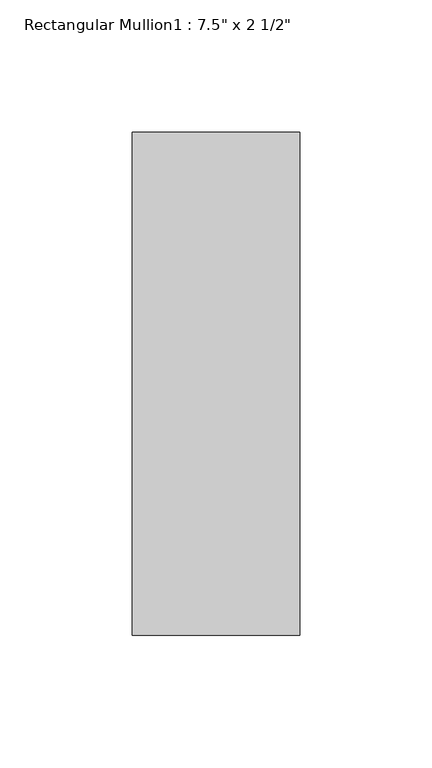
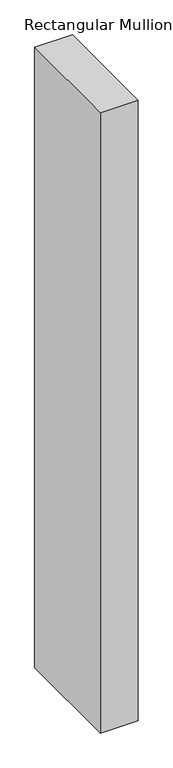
"""IFC4 building model written with IfcOpenShell, lengths in millimetres: member geometry."""

from ifc_helpers import new_model, si_unit, frame, origin, place, context, project, spatial, polyline, outline, extrude, source, transform, mapped, element, save


def member_1cd1d016(model_context):
    return source(origin(), model_context, "Body", "SweptSolid", [
        extrude(outline(polyline([(31.75, -165.1), (-31.75, -165.1), (-31.75, 25.4), (31.75, 25.4), (31.75, -165.1)])), frame((0.0, 0.0, -1098.5500012), z_axis=(0.0, 0.0, 1.0), x_axis=(1.0, 0.0, 0.0)), (0.0, 0.0, 1.0), 1098.5500012),
    ])


if __name__ == "__main__":
    model = new_model("IFC4")
    model_context = context("Model", 3, world=origin())
    ifc_project = project(units=[si_unit("LENGTHUNIT", "METRE", prefix="MILLI")], contexts=[model_context])
    site = spatial("IfcSite", under=ifc_project)
    building = spatial("IfcBuilding", under=site)
    placement = place(None, origin())
    member_shape = member_1cd1d016(model_context)
    element("IfcMember", 1, ObjectType="Rectangular Mullion1 : 7.5\" x 2 1/2\"", at=placement, inside=building, context=model_context, shape_type="MappedRepresentation", body=[
        mapped(member_shape, transform((0.0, 0.0, 0.0), x_axis=(1.0, 0.0, 0.0), y_axis=(0.0, 1.0, 0.0), z_axis=(0.0, 0.0, 1.0))),
    ])
    save(model, "model.ifc")
